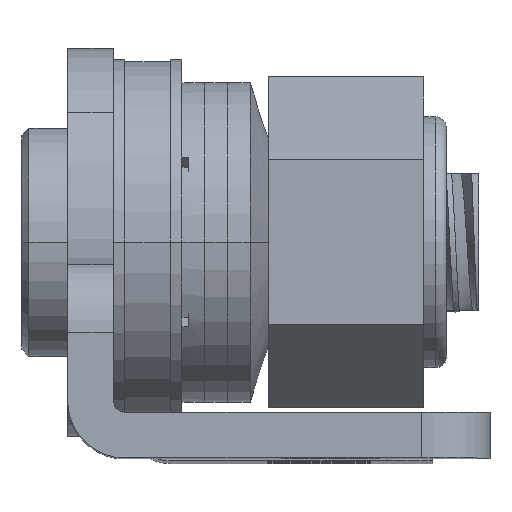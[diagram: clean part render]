
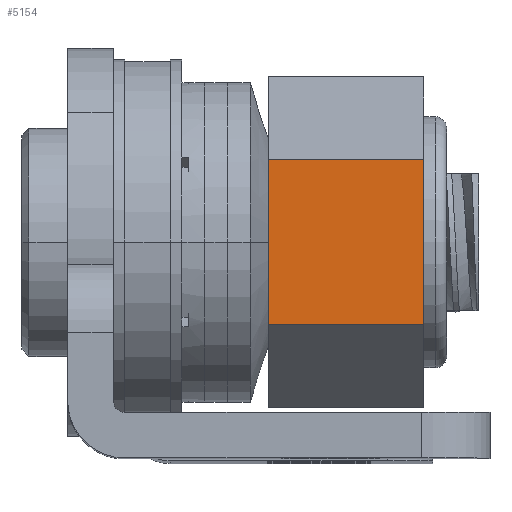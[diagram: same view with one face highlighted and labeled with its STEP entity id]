
A CAD part, top view. The second image highlights one B-rep face of the part: STEP entity #5154.
In plain terms, the highlighted planar face has unit normal (0, 0, 1).
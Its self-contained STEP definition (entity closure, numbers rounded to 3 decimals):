
#517 = CARTESIAN_POINT ( 'NONE',  ( 15.649, 13.174, -26.721 ) ) ;
#975 = CARTESIAN_POINT ( 'NONE',  ( 15.649, 13.174, -26.721 ) ) ;
#1197 = ORIENTED_EDGE ( 'NONE', *, *, #2827, .T. ) ;
#1693 = ORIENTED_EDGE ( 'NONE', *, *, #7397, .T. ) ;
#2781 = CARTESIAN_POINT ( 'NONE',  ( 8.849, 13.174, -26.721 ) ) ;
#2827 = EDGE_CURVE ( 'NONE', #7090, #5749, #6361, .T. ) ;
#3108 = VERTEX_POINT ( 'NONE', #517 ) ;
#3417 = PLANE ( 'NONE',  #7357 ) ;
#3580 = EDGE_CURVE ( 'NONE', #3108, #5749, #6825, .T. ) ;
#4106 = CARTESIAN_POINT ( 'NONE',  ( 8.849, 5.924, -26.721 ) ) ;
#4250 = ORIENTED_EDGE ( 'NONE', *, *, #3580, .F. ) ;
#4477 = EDGE_LOOP ( 'NONE', ( #1197, #4250, #7468, #1693 ) ) ;
#4486 = EDGE_CURVE ( 'NONE', #4731, #3108, #6568, .T. ) ;
#4731 = VERTEX_POINT ( 'NONE', #9461 ) ;
#5154 = ADVANCED_FACE ( 'NONE', ( #7609 ), #3417, .T. ) ;
#5529 = LINE ( 'NONE', #2781, #7079 ) ;
#5535 = CARTESIAN_POINT ( 'NONE',  ( 8.849, 5.924, -26.721 ) ) ;
#5728 = DIRECTION ( 'NONE',  ( 0., 0., 1. ) ) ;
#5749 = VERTEX_POINT ( 'NONE', #7212 ) ;
#6147 = DIRECTION ( 'NONE',  ( 0., -1., 0. ) ) ;
#6155 = DIRECTION ( 'NONE',  ( 0., -1., 0. ) ) ;
#6361 = LINE ( 'NONE', #5535, #9508 ) ;
#6494 = VECTOR ( 'NONE', #6155, 1000. ) ;
#6568 = LINE ( 'NONE', #8342, #9849 ) ;
#6609 = CARTESIAN_POINT ( 'NONE',  ( 8.849, 13.174, -26.721 ) ) ;
#6783 = DIRECTION ( 'NONE',  ( 0., -1., 0. ) ) ;
#6795 = DIRECTION ( 'NONE',  ( 1., 0., 0. ) ) ;
#6825 = LINE ( 'NONE', #975, #6494 ) ;
#7079 = VECTOR ( 'NONE', #6147, 1000. ) ;
#7090 = VERTEX_POINT ( 'NONE', #4106 ) ;
#7212 = CARTESIAN_POINT ( 'NONE',  ( 15.649, 5.924, -26.721 ) ) ;
#7357 = AXIS2_PLACEMENT_3D ( 'NONE', #6609, #5728, #6783 ) ;
#7397 = EDGE_CURVE ( 'NONE', #4731, #7090, #5529, .T. ) ;
#7468 = ORIENTED_EDGE ( 'NONE', *, *, #4486, .F. ) ;
#7609 = FACE_OUTER_BOUND ( 'NONE', #4477, .T. ) ;
#8342 = CARTESIAN_POINT ( 'NONE',  ( 8.849, 13.174, -26.721 ) ) ;
#8919 = DIRECTION ( 'NONE',  ( 1., 0., 0. ) ) ;
#9461 = CARTESIAN_POINT ( 'NONE',  ( 8.849, 13.174, -26.721 ) ) ;
#9508 = VECTOR ( 'NONE', #8919, 1000. ) ;
#9849 = VECTOR ( 'NONE', #6795, 1000. ) ;
